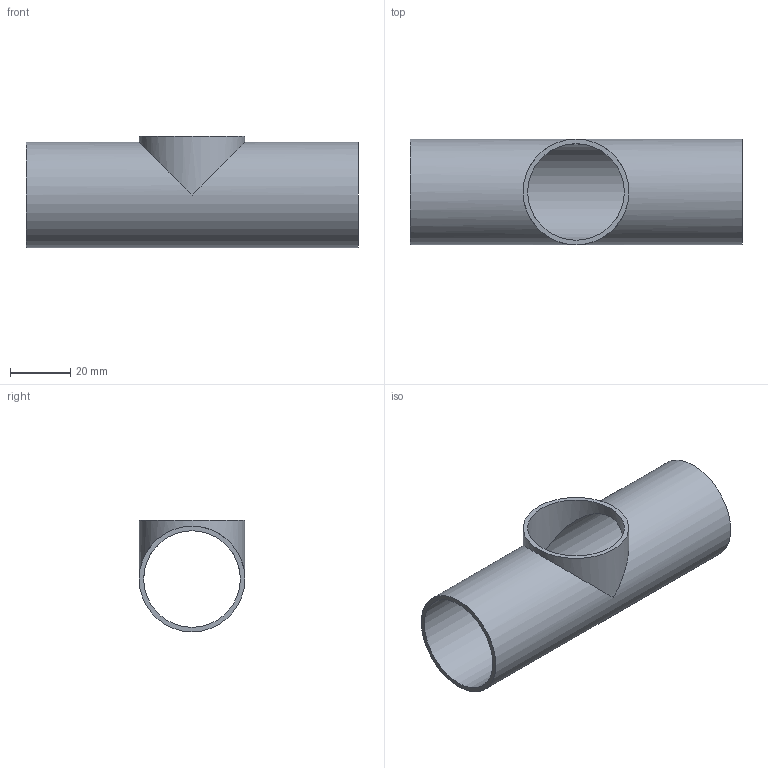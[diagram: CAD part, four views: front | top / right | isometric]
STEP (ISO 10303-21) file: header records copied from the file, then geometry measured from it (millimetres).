
FILE_DESCRIPTION(('FreeCAD Model'),'2;1');
FILE_NAME( '/home/martin/Documents/proyect/accesorios/stp/te_short_DN-32.step', '2018-01-07T08:12:04',('Author'),(''), 'Open CASCADE STEP processor 6.8','FreeCAD','Unknown');
FILE_SCHEMA(('AUTOMOTIVE_DESIGN_CC2 { 1 2 10303 214 -1 1 5 4 }'));
Length unit declared in the file: millimetre
Products named in the file (1): te_short_DN-32
Bounding box: 110 x 35 x 37 mm (x, y, z)
Volume: 17074.5 mm3; surface area: 23233.6 mm2
Topology: 1 solids, 1 shells, 7 faces, 16 edges, 12 vertices
Faces by surface type: cylinder 4, plane 3
Full cylindrical faces by diameter (mm): 32 x2, 35 x2
Entity records: 531 total; most frequent: CARTESIAN_POINT 172, DIRECTION 64, ORIENTED_EDGE 32, PCURVE 32, DEFINITIONAL_REPRESENTATION 32, AXIS2_PLACEMENT_3D 20, LINE 18, VECTOR 18
